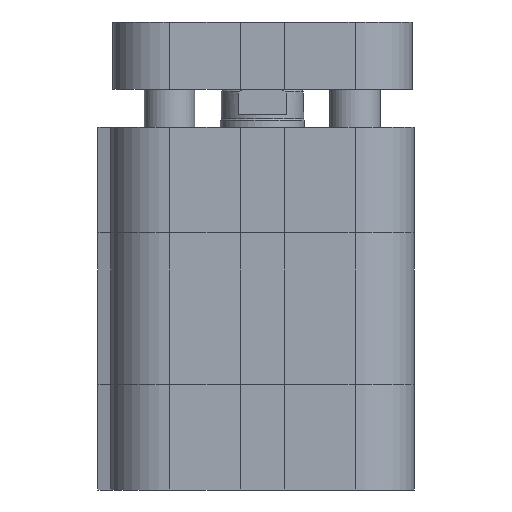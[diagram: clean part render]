
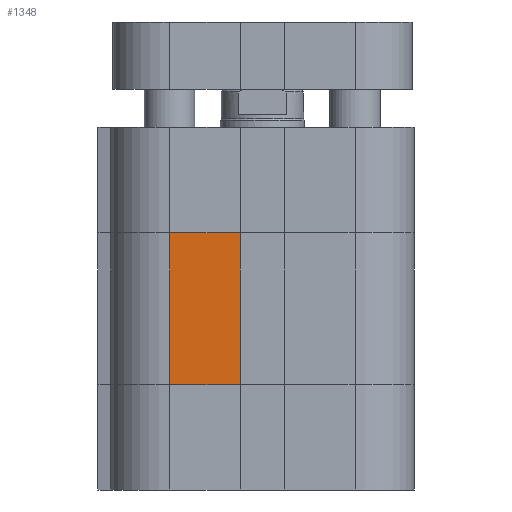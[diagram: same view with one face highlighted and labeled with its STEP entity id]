
A CAD part, left-side view. The second image highlights one B-rep face of the part: STEP entity #1348.
In plain terms, the highlighted planar face has unit normal (-1, 0, 0).
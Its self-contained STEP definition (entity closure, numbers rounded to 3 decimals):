
#1259=CARTESIAN_POINT('',(-18.,11.0,12.5));
#1260=VERTEX_POINT('',#1259);
#1268=CARTESIAN_POINT('',(-18.,11.0,30.5));
#1269=VERTEX_POINT('',#1268);
#1270=CARTESIAN_POINT('',(-18.,11.0,12.5));
#1271=DIRECTION('',(0.0,0.0,1.0));
#1272=VECTOR('',#1271,18.);
#1273=LINE('',#1270,#1272);
#1274=EDGE_CURVE('',#1260,#1269,#1273,.T.);
#1318=CARTESIAN_POINT('',(-18.0,2.6,0.0));
#1319=DIRECTION('',(-1.0,0.0,0.0));
#1320=DIRECTION('',(0.0,0.0,1.0));
#1321=AXIS2_PLACEMENT_3D('',#1318,#1319,#1320);
#1322=PLANE('',#1321);
#1323=CARTESIAN_POINT('',(-18.0,2.6,12.5));
#1324=VERTEX_POINT('',#1323);
#1325=CARTESIAN_POINT('',(-18.,11.0,12.5));
#1326=DIRECTION('',(0.0,-1.0,0.0));
#1327=VECTOR('',#1326,8.4);
#1328=LINE('',#1325,#1327);
#1329=EDGE_CURVE('',#1260,#1324,#1328,.T.);
#1330=ORIENTED_EDGE('',*,*,#1329,.T.);
#1331=CARTESIAN_POINT('',(-18.0,2.6,30.5));
#1332=VERTEX_POINT('',#1331);
#1333=CARTESIAN_POINT('',(-18.0,2.6,12.5));
#1334=DIRECTION('',(0.0,0.0,1.0));
#1335=VECTOR('',#1334,18.);
#1336=LINE('',#1333,#1335);
#1337=EDGE_CURVE('',#1324,#1332,#1336,.T.);
#1338=ORIENTED_EDGE('',*,*,#1337,.T.);
#1339=CARTESIAN_POINT('',(-18.,11.0,30.5));
#1340=DIRECTION('',(0.0,-1.0,0.0));
#1341=VECTOR('',#1340,8.4);
#1342=LINE('',#1339,#1341);
#1343=EDGE_CURVE('',#1269,#1332,#1342,.T.);
#1344=ORIENTED_EDGE('',*,*,#1343,.F.);
#1345=ORIENTED_EDGE('',*,*,#1274,.F.);
#1346=EDGE_LOOP('',(#1330,#1338,#1344,#1345));
#1347=FACE_OUTER_BOUND('',#1346,.T.);
#1348=ADVANCED_FACE('',(#1347),#1322,.T.);
